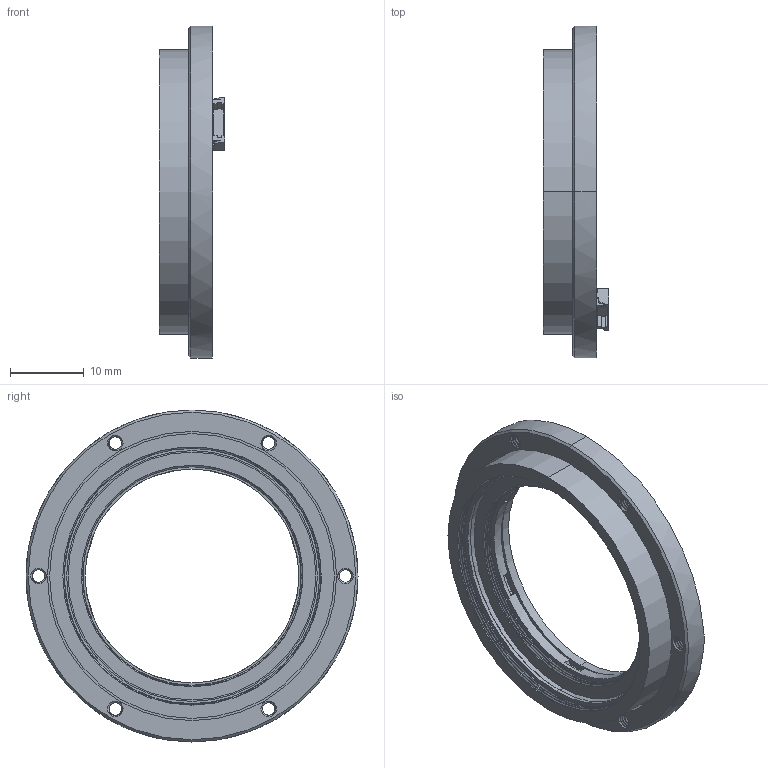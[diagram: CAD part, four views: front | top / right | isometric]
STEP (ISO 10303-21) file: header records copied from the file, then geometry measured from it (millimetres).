
FILE_DESCRIPTION (( 'STEP AP214' ), '1' );
FILE_NAME ('DPT-30-35-45 ¸üÐÂ.STEP', '2024-07-06T06:23:39', ( 'C' ), ( 'Microsoft' ), 'SwSTEP 2.0', 'SolidWorks 2016', '' );
FILE_SCHEMA (( 'AUTOMOTIVE_DESIGN' ));
Length unit declared in the file: millimetre
Products named in the file (1): DPT-30-35-45 載陔
Bounding box: 8.91 x 45 x 45 mm (x, y, z)
Volume: 3704.6 mm3; surface area: 6636.5 mm2
Topology: 8 solids, 8 shells, 520 faces, 1382 edges, 906 vertices
Faces by surface type: plane 211, cylinder 204, bspline 69, cone 36
Entity records: 26453 total; most frequent: CARTESIAN_POINT 11890, ORIENTED_EDGE 2764, DIRECTION 2282, EDGE_CURVE 1382, VERTEX_POINT 906, AXIS2_PLACEMENT_3D 774, VECTOR 734, LINE 734
